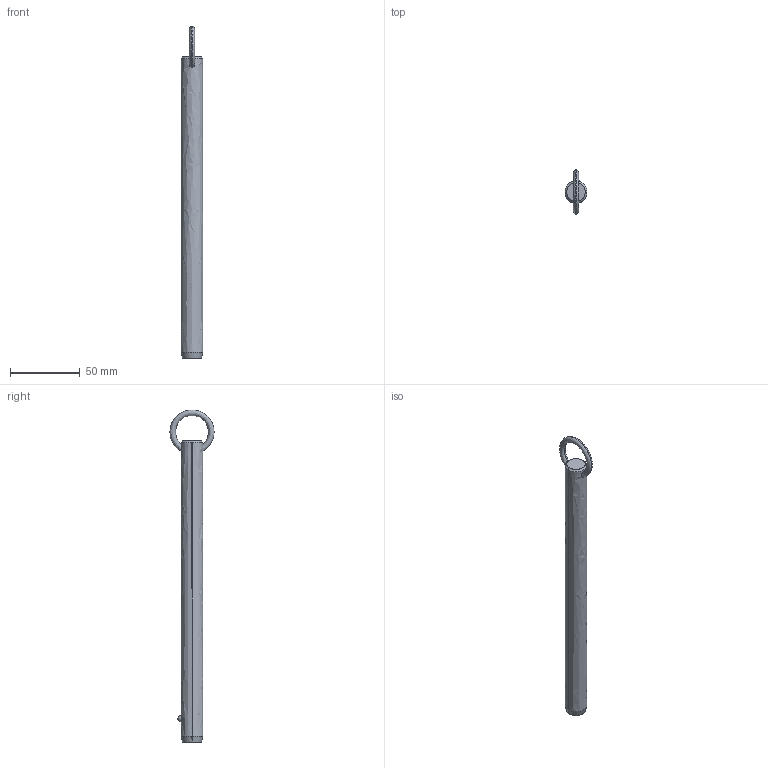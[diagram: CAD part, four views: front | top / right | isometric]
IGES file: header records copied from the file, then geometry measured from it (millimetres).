
Start section: SolidWorks IGES file using analytic representation for surfaces
Global section: file name: C:\Users\liam_\OneDrive\Documents\WORK\Work for WixRoyd\Job Files\J-00019 - Matt Davis CAD Checking\04. CAD Drawings\automotion20190605\P1250.2_v2\P1250.2_v2_20190729_IGES\P1250.062-740.igs; native system: SolidWorks 2017; preprocessor: SolidWorks 2017; author: liam_; date: 190729.234455; units: millimetre
Bounding box: 15.8 x 31.7 x 238.69 mm (x, y, z)
Surface area: 11920.3 mm2 (no closed solid volume)
Topology: 0 solids, 0 shells, 12 faces, 292 edges, 290 vertices
Faces by surface type: revolution 8, bspline 4
